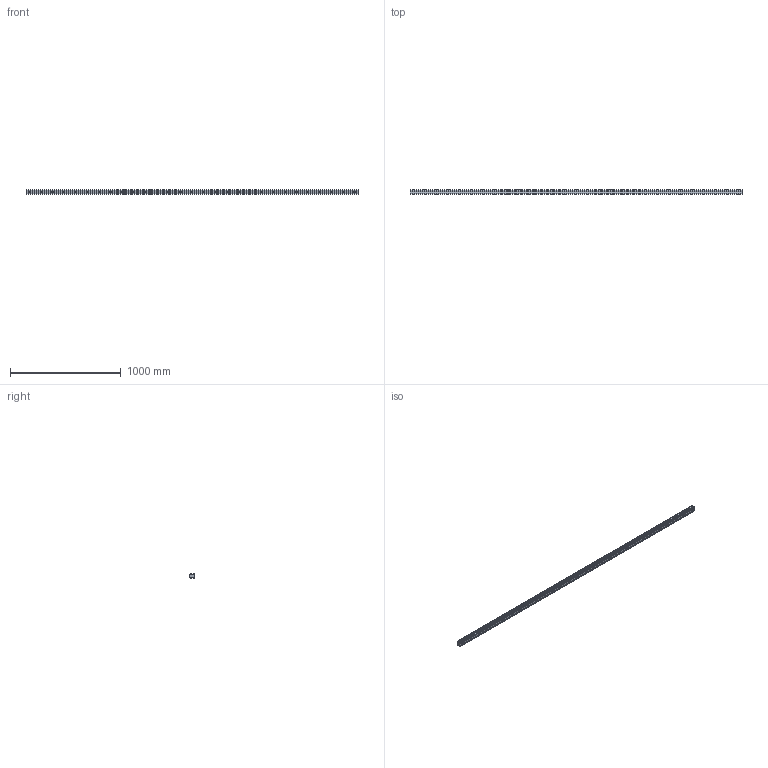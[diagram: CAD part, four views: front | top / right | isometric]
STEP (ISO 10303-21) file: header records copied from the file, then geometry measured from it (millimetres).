
FILE_DESCRIPTION(/* description */ ('STEP AP214'),/* implementation_level */ '2;1');
FILE_NAME(/* name */ 'HSR45-3000L(GK) RAIL(30)',/* time_stamp */ '2023-06-01T08:14:11+02:00',/* author */ ('License CC BY-ND 4.0'),/* organization */ ('CADENAS'),/* preprocessor_version */ 'ST-DEVELOPER v19.3',/* originating_system */ 'PARTsolutions',/* authorisation */ ' ');
FILE_SCHEMA (('AUTOMOTIVE_DESIGN {1 0 10303 214 3 1 1}'));
Length unit declared in the file: millimetre
Products named in the file (1): HSR45-3000L(GK) RAIL(30)
Bounding box: 3000 x 38 x 45 mm (x, y, z)
Volume: 4220209.8 mm3; surface area: 567946.1 mm2
Topology: 1 solids, 1 shells, 121 faces, 270 edges, 180 vertices
Faces by surface type: cylinder 62, plane 59
Full cylindrical faces by diameter (mm): 14 x29, 20 x29
Entity records: 3264 total; most frequent: DIRECTION 580, CARTESIAN_POINT 514, ORIENTED_EDGE 424, EDGE_LOOP 266, FACE_BOUND 266, AXIS2_PLACEMENT_3D 246, EDGE_CURVE 212, VERTEX_POINT 180
